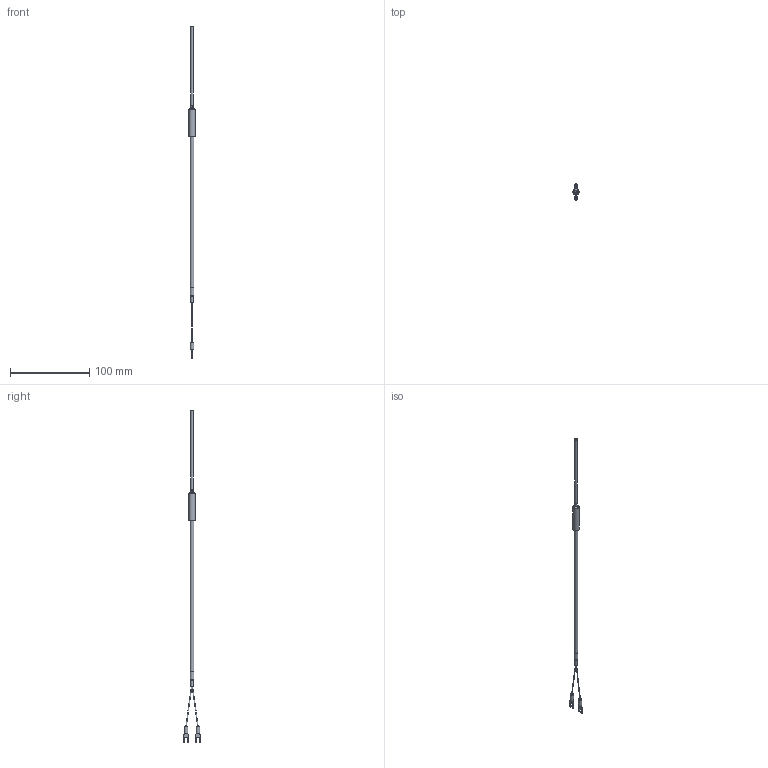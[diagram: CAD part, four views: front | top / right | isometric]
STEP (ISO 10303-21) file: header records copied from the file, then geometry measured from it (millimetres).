
FILE_DESCRIPTION (( 'STEP AP203' ), '1' );
FILE_NAME ('YIT101S-4(1).STEP', '2024-05-02T06:54:53', ( '' ), ( '' ), 'SwSTEP 2.0', 'SolidWorks 2021', '' );
FILE_SCHEMA (( 'CONFIG_CONTROL_DESIGN' ));
Length unit declared in the file: millimetre
Products named in the file (1): YIT101S-4(1)
Bounding box: 8 x 20.85 x 420 mm (x, y, z)
Volume: 6747.7 mm3; surface area: 5926.8 mm2
Topology: 1 solids, 1 shells, 67 faces, 163 edges, 106 vertices
Faces by surface type: plane 34, cylinder 21, bspline 8, cone 3, torus 1
Full cylindrical faces by diameter (mm): 3.16 x1, 3.2 x1, 4.5 x2, 4.8 x1, 5 x1, 8 x1
Entity records: 2125 total; most frequent: CARTESIAN_POINT 562, DIRECTION 300, ORIENTED_EDGE 290, EDGE_CURVE 145, AXIS2_PLACEMENT_3D 107, VERTEX_POINT 101, EDGE_LOOP 88, VECTOR 86
